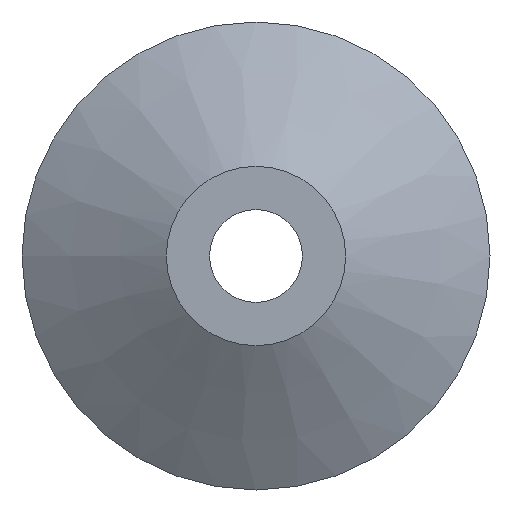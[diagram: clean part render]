
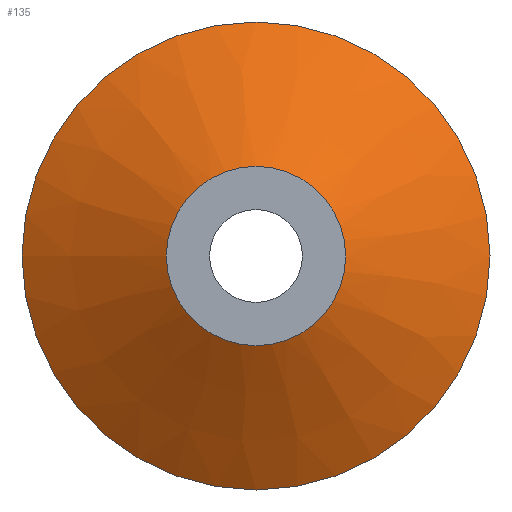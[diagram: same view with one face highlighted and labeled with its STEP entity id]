
A CAD part, left-side view. The second image highlights one B-rep face of the part: STEP entity #135.
In plain terms, the highlighted conical face has half-angle 58.472 degrees and reference radius 22.475 mm.
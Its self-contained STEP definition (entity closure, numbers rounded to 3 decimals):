
#101=CARTESIAN_POINT('',(-2.122,6.,0.0));
#102=VERTEX_POINT('',#101);
#103=CARTESIAN_POINT('',(-2.122,-6.45,0.0));
#104=DIRECTION('',(1.0,0.0,0.0));
#105=DIRECTION('',(0.0,1.0,0.0));
#106=AXIS2_PLACEMENT_3D('',#103,#104,#105);
#107=CIRCLE('',#106,12.45);
#108=EDGE_CURVE('',#102,#102,#107,.T.);
#116=CARTESIAN_POINT('',(4.028,-6.45,0.0));
#117=DIRECTION('',(1.0,0.,0.0));
#118=DIRECTION('',(0.0,1.0,0.0));
#119=AXIS2_PLACEMENT_3D('',#116,#117,#118);
#120=CONICAL_SURFACE('',#119,22.475,58.472);
#121=CARTESIAN_POINT('',(10.178,26.05,0.0));
#122=VERTEX_POINT('',#121);
#123=CARTESIAN_POINT('',(10.178,-6.45,0.0));
#124=DIRECTION('',(1.0,0.0,0.0));
#125=DIRECTION('',(0.0,1.0,0.0));
#126=AXIS2_PLACEMENT_3D('',#123,#124,#125);
#127=CIRCLE('',#126,32.5);
#128=EDGE_CURVE('',#122,#122,#127,.T.);
#129=ORIENTED_EDGE('',*,*,#128,.F.);
#130=EDGE_LOOP('',(#129));
#131=FACE_OUTER_BOUND('',#130,.T.);
#132=ORIENTED_EDGE('',*,*,#108,.T.);
#133=EDGE_LOOP('',(#132));
#134=FACE_BOUND('',#133,.T.);
#135=ADVANCED_FACE('',(#131,#134),#120,.T.);
